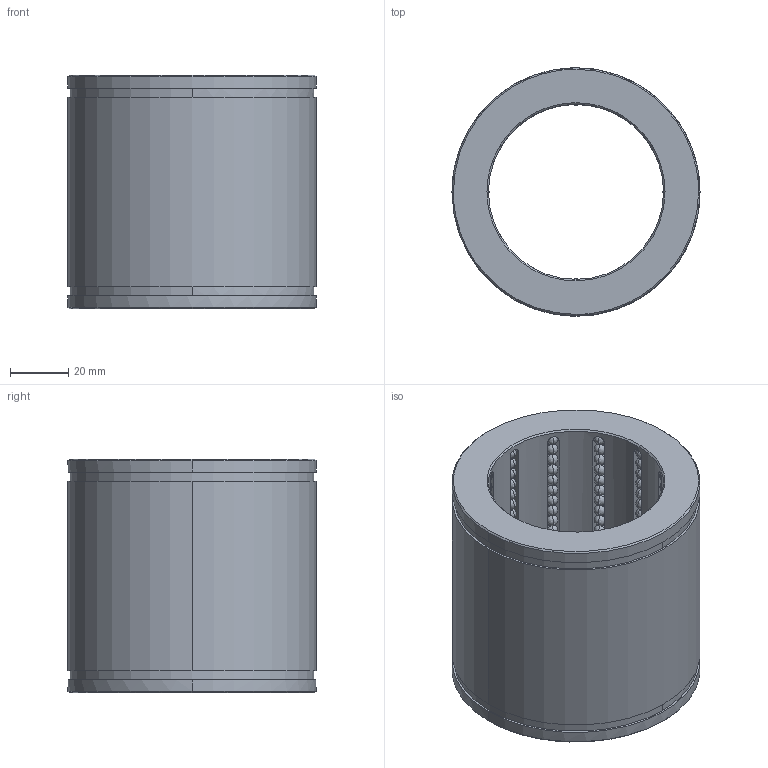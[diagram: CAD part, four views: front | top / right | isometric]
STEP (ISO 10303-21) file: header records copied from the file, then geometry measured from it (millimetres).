
FILE_DESCRIPTION(('CATIA V5 STEP Exchange'),'2;1');
FILE_NAME('C:\Users\Raffaele\Desktop\3D BOLEX\3D FILES CF BOLEX\3-BUSH REF 803\B8036080.stp','2019-06-19T14:04:23+00:00',('none'),('none'),'CATIA Version 5 Release 20 GA (IN-10)','CATIA V5 STEP AP203','none');
FILE_SCHEMA(('CONFIG_CONTROL_DESIGN'));
Length unit declared in the file: millimetre
Products named in the file (1): B8036080
Bounding box: 85 x 85 x 80 mm (x, y, z)
Volume: 219887.9 mm3; surface area: 60732.8 mm2
Topology: 217 solids, 217 shells, 958 faces, 2818 edges, 580 vertices
Faces by surface type: sphere 864, plane 42, cylinder 36, cone 16
Entity records: 17694 total; most frequent: CARTESIAN_POINT 3459, DIRECTION 2954, ORIENTED_EDGE 2180, AXIS2_PLACEMENT_3D 1871, EDGE_CURVE 1090, EDGE_LOOP 974, ADVANCED_FACE 958, FACE_OUTER_BOUND 958
